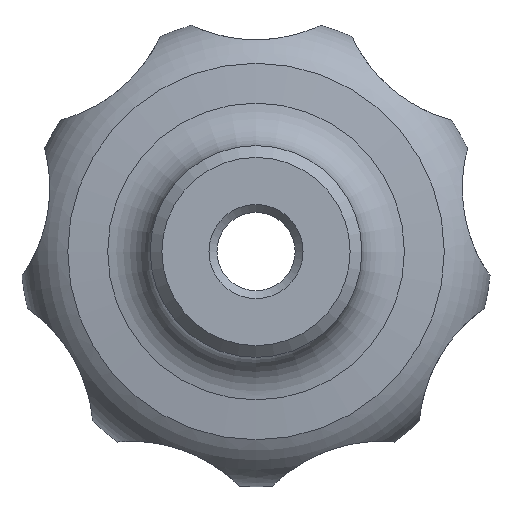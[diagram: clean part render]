
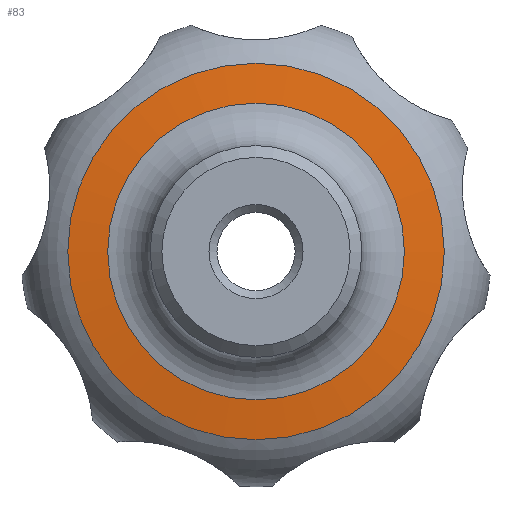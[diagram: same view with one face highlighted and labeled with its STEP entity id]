
A CAD part, front view. The second image highlights one B-rep face of the part: STEP entity #83.
In plain terms, the highlighted spherical face has radius 128.5 mm.
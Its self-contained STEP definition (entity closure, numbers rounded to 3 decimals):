
#83 = ADVANCED_FACE( '', ( #116, #117 ), #118, .T. );
#116 = FACE_OUTER_BOUND( '', #177, .T. );
#117 = FACE_OUTER_BOUND( '', #178, .T. );
#118 = SPHERICAL_SURFACE( '', #179, 128.5 );
#177 = EDGE_LOOP( '', ( #254 ) );
#178 = EDGE_LOOP( '', ( #255 ) );
#179 = AXIS2_PLACEMENT_3D( '', #256, #257, #258 );
#254 = ORIENTED_EDGE( '', *, *, #328, .T. );
#255 = ORIENTED_EDGE( '', *, *, #327, .F. );
#256 = CARTESIAN_POINT( '', ( 0., 143.5, 0. ) );
#257 = DIRECTION( '', ( 0., -1., 0. ) );
#258 = DIRECTION( '', ( 1., 0., 0. ) );
#327 = EDGE_CURVE( '', #356, #356, #357, .T. );
#328 = EDGE_CURVE( '', #358, #358, #359, .T. );
#356 = VERTEX_POINT( '', #718 );
#357 = CIRCLE( '', #719, 12.608 );
#358 = VERTEX_POINT( '', #720 );
#359 = CIRCLE( '', #721, 16. );
#718 = CARTESIAN_POINT( '', ( 0., 15.62, -12.608 ) );
#719 = AXIS2_PLACEMENT_3D( '', #1198, #1199, #1200 );
#720 = CARTESIAN_POINT( '', ( 0., 16., -16. ) );
#721 = AXIS2_PLACEMENT_3D( '', #1201, #1202, #1203 );
#1198 = CARTESIAN_POINT( '', ( 0., 15.62, 0. ) );
#1199 = DIRECTION( '', ( 0., -1., 0. ) );
#1200 = DIRECTION( '', ( 0., 0., -1. ) );
#1201 = CARTESIAN_POINT( '', ( 0., 16., 0. ) );
#1202 = DIRECTION( '', ( 0., -1., 0. ) );
#1203 = DIRECTION( '', ( 0., 0., -1. ) );
